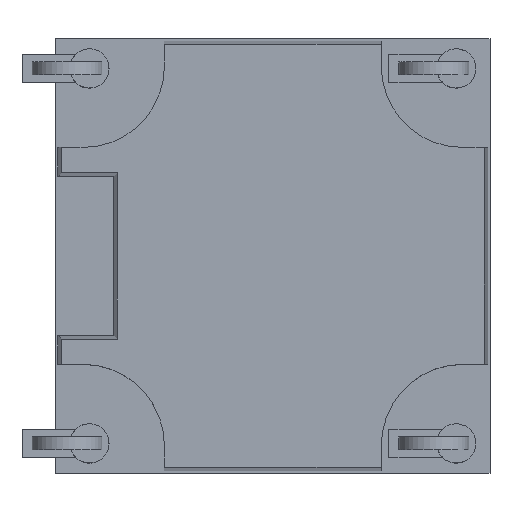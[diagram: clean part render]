
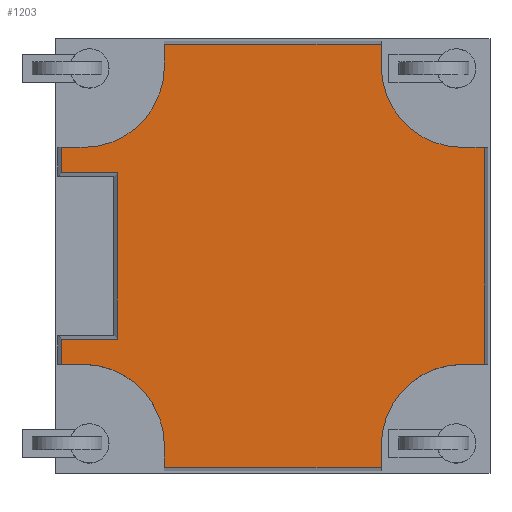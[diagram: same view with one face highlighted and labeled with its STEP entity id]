
A CAD part, top view. The second image highlights one B-rep face of the part: STEP entity #1203.
In plain terms, the highlighted planar face has unit normal (0, 0, 1).
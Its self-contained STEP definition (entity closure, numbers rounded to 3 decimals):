
#47=CIRCLE('',#1299,145.);
#48=CIRCLE('',#1300,145.);
#49=CIRCLE('',#1301,145.);
#50=CIRCLE('',#1302,145.);
#176=ORIENTED_EDGE('',*,*,#480,.T.);
#177=ORIENTED_EDGE('',*,*,#481,.T.);
#178=ORIENTED_EDGE('',*,*,#482,.T.);
#179=ORIENTED_EDGE('',*,*,#483,.F.);
#180=ORIENTED_EDGE('',*,*,#484,.F.);
#181=ORIENTED_EDGE('',*,*,#485,.F.);
#182=ORIENTED_EDGE('',*,*,#486,.T.);
#183=ORIENTED_EDGE('',*,*,#487,.T.);
#184=ORIENTED_EDGE('',*,*,#488,.T.);
#185=ORIENTED_EDGE('',*,*,#489,.T.);
#186=ORIENTED_EDGE('',*,*,#490,.T.);
#187=ORIENTED_EDGE('',*,*,#491,.F.);
#188=ORIENTED_EDGE('',*,*,#492,.F.);
#189=ORIENTED_EDGE('',*,*,#493,.F.);
#190=ORIENTED_EDGE('',*,*,#494,.T.);
#191=ORIENTED_EDGE('',*,*,#495,.T.);
#192=ORIENTED_EDGE('',*,*,#496,.T.);
#193=ORIENTED_EDGE('',*,*,#497,.T.);
#194=ORIENTED_EDGE('',*,*,#498,.T.);
#195=ORIENTED_EDGE('',*,*,#499,.T.);
#480=EDGE_CURVE('',#632,#633,#753,.F.);
#481=EDGE_CURVE('',#633,#634,#754,.F.);
#482=EDGE_CURVE('',#634,#635,#755,.F.);
#483=EDGE_CURVE('',#636,#635,#756,.T.);
#484=EDGE_CURVE('',#637,#636,#47,.T.);
#485=EDGE_CURVE('',#638,#637,#757,.T.);
#486=EDGE_CURVE('',#638,#639,#758,.F.);
#487=EDGE_CURVE('',#639,#640,#759,.T.);
#488=EDGE_CURVE('',#640,#641,#48,.T.);
#489=EDGE_CURVE('',#641,#642,#760,.T.);
#490=EDGE_CURVE('',#642,#643,#761,.F.);
#491=EDGE_CURVE('',#644,#643,#762,.T.);
#492=EDGE_CURVE('',#645,#644,#49,.T.);
#493=EDGE_CURVE('',#646,#645,#763,.T.);
#494=EDGE_CURVE('',#646,#647,#764,.F.);
#495=EDGE_CURVE('',#647,#648,#765,.T.);
#496=EDGE_CURVE('',#648,#649,#50,.T.);
#497=EDGE_CURVE('',#649,#650,#766,.T.);
#498=EDGE_CURVE('',#650,#651,#767,.F.);
#499=EDGE_CURVE('',#651,#632,#768,.F.);
#632=VERTEX_POINT('',#1849);
#633=VERTEX_POINT('',#1850);
#634=VERTEX_POINT('',#1852);
#635=VERTEX_POINT('',#1854);
#636=VERTEX_POINT('',#1856);
#637=VERTEX_POINT('',#1858);
#638=VERTEX_POINT('',#1860);
#639=VERTEX_POINT('',#1862);
#640=VERTEX_POINT('',#1864);
#641=VERTEX_POINT('',#1866);
#642=VERTEX_POINT('',#1868);
#643=VERTEX_POINT('',#1870);
#644=VERTEX_POINT('',#1872);
#645=VERTEX_POINT('',#1874);
#646=VERTEX_POINT('',#1876);
#647=VERTEX_POINT('',#1878);
#648=VERTEX_POINT('',#1880);
#649=VERTEX_POINT('',#1882);
#650=VERTEX_POINT('',#1884);
#651=VERTEX_POINT('',#1886);
#753=LINE('',#1848,#889);
#754=LINE('',#1851,#890);
#755=LINE('',#1853,#891);
#756=LINE('',#1855,#892);
#757=LINE('',#1859,#893);
#758=LINE('',#1861,#894);
#759=LINE('',#1863,#895);
#760=LINE('',#1867,#896);
#761=LINE('',#1869,#897);
#762=LINE('',#1871,#898);
#763=LINE('',#1875,#899);
#764=LINE('',#1877,#900);
#765=LINE('',#1879,#901);
#766=LINE('',#1883,#902);
#767=LINE('',#1885,#903);
#768=LINE('',#1887,#904);
#889=VECTOR('',#1497,1000.);
#890=VECTOR('',#1498,1000.);
#891=VECTOR('',#1499,1000.);
#892=VECTOR('',#1500,1000.);
#893=VECTOR('',#1503,1000.);
#894=VECTOR('',#1504,1000.);
#895=VECTOR('',#1505,1000.);
#896=VECTOR('',#1508,1000.);
#897=VECTOR('',#1509,1000.);
#898=VECTOR('',#1510,1000.);
#899=VECTOR('',#1513,1000.);
#900=VECTOR('',#1514,1000.);
#901=VECTOR('',#1515,1000.);
#902=VECTOR('',#1518,1000.);
#903=VECTOR('',#1519,1000.);
#904=VECTOR('',#1520,1000.);
#996=EDGE_LOOP('',(#176,#177,#178,#179,#180,#181,#182,#183,#184,#185,#186,
#187,#188,#189,#190,#191,#192,#193,#194,#195));
#1072=FACE_BOUND('',#996,.T.);
#1146=PLANE('',#1298);
#1203=ADVANCED_FACE('',(#1072),#1146,.T.);
#1298=AXIS2_PLACEMENT_3D('',#1847,#1495,#1496);
#1299=AXIS2_PLACEMENT_3D('',#1857,#1501,#1502);
#1300=AXIS2_PLACEMENT_3D('',#1865,#1506,#1507);
#1301=AXIS2_PLACEMENT_3D('',#1873,#1511,#1512);
#1302=AXIS2_PLACEMENT_3D('',#1881,#1516,#1517);
#1495=DIRECTION('',(0.,0.,1.));
#1496=DIRECTION('',(1.,0.,0.));
#1497=DIRECTION('',(0.,1.,0.));
#1498=DIRECTION('',(1.,0.,0.));
#1499=DIRECTION('',(0.,1.,0.));
#1500=DIRECTION('',(-1.,0.,0.));
#1501=DIRECTION('',(0.,0.,1.));
#1502=DIRECTION('',(-1.,0.,0.));
#1503=DIRECTION('',(0.,1.,0.));
#1504=DIRECTION('',(-1.,0.,0.));
#1505=DIRECTION('',(0.,1.,0.));
#1506=DIRECTION('',(0.,0.,-1.));
#1507=DIRECTION('',(1.,0.,0.));
#1508=DIRECTION('',(1.,0.,0.));
#1509=DIRECTION('',(0.,-1.,0.));
#1510=DIRECTION('',(1.,0.,0.));
#1511=DIRECTION('',(0.,0.,1.));
#1512=DIRECTION('',(1.,0.,0.));
#1513=DIRECTION('',(0.,-1.,0.));
#1514=DIRECTION('',(1.,0.,0.));
#1515=DIRECTION('',(0.,-1.,0.));
#1516=DIRECTION('',(0.,0.,-1.));
#1517=DIRECTION('',(1.,0.,0.));
#1518=DIRECTION('',(-1.,0.,0.));
#1519=DIRECTION('',(0.,1.,0.));
#1520=DIRECTION('',(-1.,0.,0.));
#1847=CARTESIAN_POINT('',(0.,0.,128.));
#1848=CARTESIAN_POINT('',(-277.316,0.,128.));
#1849=CARTESIAN_POINT('',(-277.316,148.5,128.));
#1850=CARTESIAN_POINT('',(-277.316,-148.5,128.));
#1851=CARTESIAN_POINT('',(0.,-148.5,128.));
#1852=CARTESIAN_POINT('',(-377.316,-148.5,128.));
#1853=CARTESIAN_POINT('',(-377.316,0.,128.));
#1854=CARTESIAN_POINT('',(-377.316,-193.5,128.));
#1855=CARTESIAN_POINT('',(-338.5,-193.5,128.));
#1856=CARTESIAN_POINT('',(-338.5,-193.5,128.));
#1857=CARTESIAN_POINT('',(-338.5,-338.5,128.));
#1858=CARTESIAN_POINT('',(-193.5,-338.5,128.));
#1859=CARTESIAN_POINT('',(-193.5,-338.5,128.));
#1860=CARTESIAN_POINT('',(-193.5,-377.316,128.));
#1861=CARTESIAN_POINT('',(0.,-377.316,128.));
#1862=CARTESIAN_POINT('',(193.5,-377.316,128.));
#1863=CARTESIAN_POINT('',(193.5,-338.5,128.));
#1864=CARTESIAN_POINT('',(193.5,-338.5,128.));
#1865=CARTESIAN_POINT('',(338.5,-338.5,128.));
#1866=CARTESIAN_POINT('',(338.5,-193.5,128.));
#1867=CARTESIAN_POINT('',(338.5,-193.5,128.));
#1868=CARTESIAN_POINT('',(377.316,-193.5,128.));
#1869=CARTESIAN_POINT('',(377.316,0.,128.));
#1870=CARTESIAN_POINT('',(377.316,193.5,128.));
#1871=CARTESIAN_POINT('',(338.5,193.5,128.));
#1872=CARTESIAN_POINT('',(338.5,193.5,128.));
#1873=CARTESIAN_POINT('',(338.5,338.5,128.));
#1874=CARTESIAN_POINT('',(193.5,338.5,128.));
#1875=CARTESIAN_POINT('',(193.5,338.5,128.));
#1876=CARTESIAN_POINT('',(193.5,377.316,128.));
#1877=CARTESIAN_POINT('',(0.,377.316,128.));
#1878=CARTESIAN_POINT('',(-193.5,377.316,128.));
#1879=CARTESIAN_POINT('',(-193.5,338.5,128.));
#1880=CARTESIAN_POINT('',(-193.5,338.5,128.));
#1881=CARTESIAN_POINT('',(-338.5,338.5,128.));
#1882=CARTESIAN_POINT('',(-338.5,193.5,128.));
#1883=CARTESIAN_POINT('',(-338.5,193.5,128.));
#1884=CARTESIAN_POINT('',(-377.316,193.5,128.));
#1885=CARTESIAN_POINT('',(-377.316,0.,128.));
#1886=CARTESIAN_POINT('',(-377.316,148.5,128.));
#1887=CARTESIAN_POINT('',(0.,148.5,128.));
